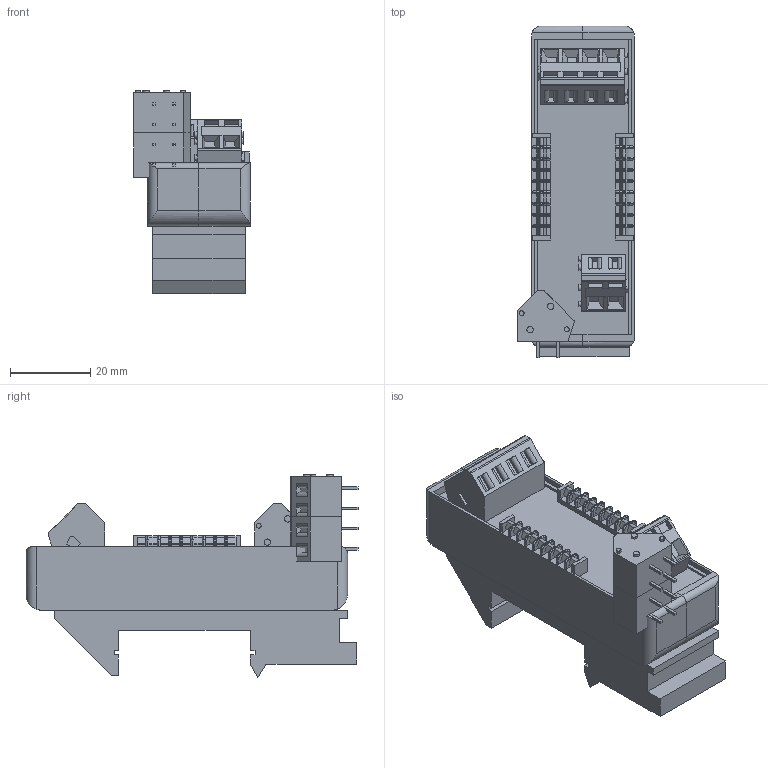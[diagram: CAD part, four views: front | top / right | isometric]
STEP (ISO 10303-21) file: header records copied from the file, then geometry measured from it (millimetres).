
FILE_DESCRIPTION( ( 'Unknown' ), '1' );
FILE_NAME( 'C:/Users/CAD/Documents/Projekte/EMS Produkte/CRep NM/CRep-NM.stp', 'Unknown', ( 'el' ), ( 'EMS Dr. Thomas Wuensche' ), 'PSStep 14.0', 'Unknown', ' ' );
FILE_SCHEMA( ( 'AUTOMOTIVE_DESIGN { 1 0 10303 214 1 1 1 1 }' ) );
Length unit declared in the file: millimetre
Products named in the file (7): Assem1; Platine; 236-402; 236-404; comp1; Universalfu\X2\00D\X0\; Wieland_WEB1002_End
Bounding box: 29.05 x 82.6 x 50.59 mm (x, y, z)
Volume: 83605.6 mm3; surface area: 41312.4 mm2
Topology: 13 solids, 13 shells, 1566 faces, 4044 edges, 2468 vertices
Faces by surface type: plane 909, cylinder 369, bspline 192, torus 96
Full cylindrical faces by diameter (mm): 0.1 x2, 0.103 x2, 1 x24, 1.2 x8, 1.6 x8
Entity records: 24721 total; most frequent: CARTESIAN_POINT 5074, ORIENTED_EDGE 3062, DIRECTION 2937, EDGE_CURVE 1531, LINE 1111, VECTOR 1111, VERTEX_POINT 978, AXIS2_PLACEMENT_3D 913
